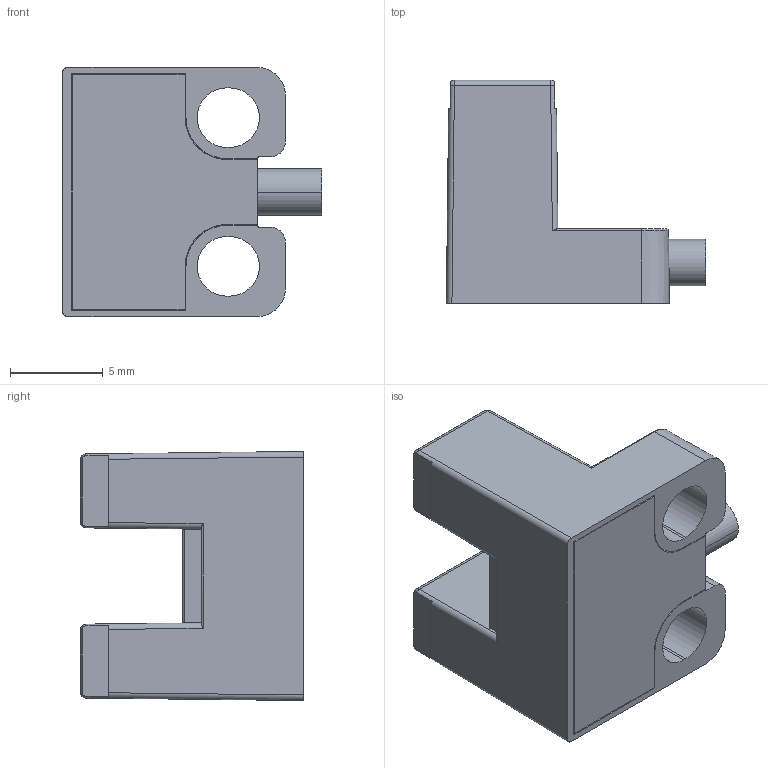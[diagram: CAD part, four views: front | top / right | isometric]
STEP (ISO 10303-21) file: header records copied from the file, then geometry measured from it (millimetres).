
FILE_DESCRIPTION((''),'2;1');
FILE_NAME('PM-L25_ASM','2018-06-23T14:41:26',('Administrator'),(''),'CREO PARAMETRIC BY PTC INC, 2016390','CREO PARAMETRIC BY PTC INC, 2016390','');
FILE_SCHEMA(('AUTOMOTIVE_DESIGN { 1 0 10303 214 1 1 1 1 }'));
Length unit declared in the file: millimetre
Products named in the file (8): PM-L25_1; 25PCB00; 0001; 25PCBASSEMBLY00_ASM; PM-L25_2; 0002; GJDZ_20180529; PM-L25_ASM
Assembly tree (7 placements, depth 3):
  PM-L25_ASM
    PM-L25_1
    25PCBASSEMBLY00_ASM
      25PCB00
      0001
    PM-L25_2
    0002
    GJDZ_20180529
Bounding box: 13.95 x 12 x 13.4 mm (x, y, z)
Volume: 670.7 mm3; surface area: 2107.8 mm2
Topology: 8 solids, 8 shells, 364 faces, 971 edges, 617 vertices
Faces by surface type: plane 281, cylinder 51, sphere 16, cone 10, torus 6
Entity records: 13186 total; most frequent: CARTESIAN_POINT 2132, ORIENTED_EDGE 1910, DIRECTION 1826, EDGE_CURVE 955, VECTOR 790, LINE 790, VERTEX_POINT 617, AXIS2_PLACEMENT_3D 518
